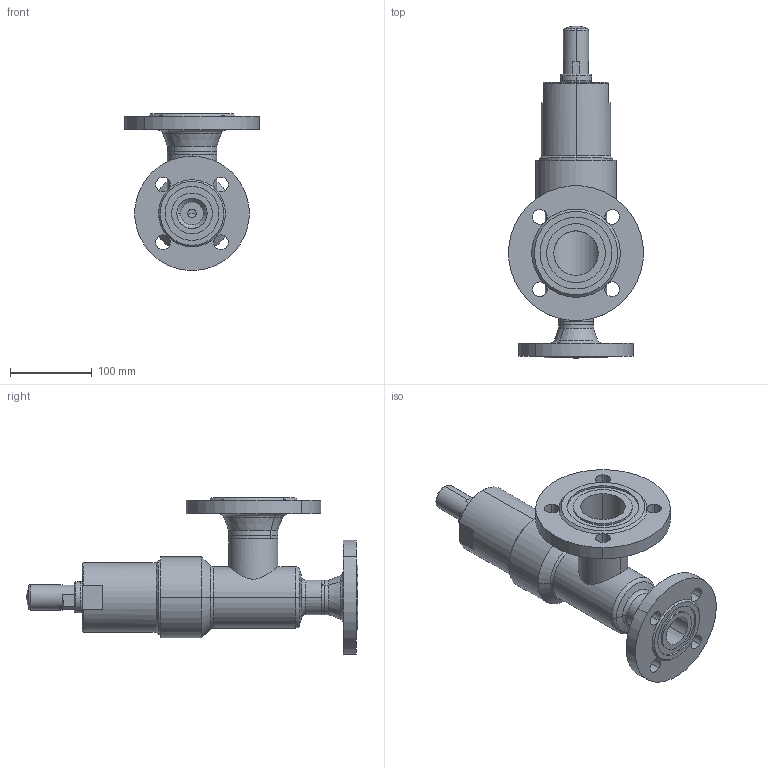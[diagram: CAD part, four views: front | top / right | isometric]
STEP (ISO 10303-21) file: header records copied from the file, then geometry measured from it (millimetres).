
FILE_DESCRIPTION (( 'STEP AP214' ), '1' );
FILE_NAME ('SVA 45520D13-DN32(50)_DIN.STEP', '2010-06-07T11:07:47', ( 'Eckhard Grams' ), ( 'AWP Kälte Klima Armaturen GmbH' ), 'SwSTEP 2.0', 'SolidWorks 2002296', '' );
FILE_SCHEMA (( 'AUTOMOTIVE_DESIGN' ));
Length unit declared in the file: millimetre
Products named in the file (11): SVA 45520D13-DN32(50)_DIN; Gehkpl 45720E13-5030001; Geh 45700E13-5034004_DN32; Flansch-DIN2635-Nut_PS40_DIN-Flansch-DN032_PS40-Nut; Rohrstutzen-A 45700E13-5036004_DN32(50)_Standard; Flansch-DIN2635-Nut_PS40_DIN-Flansch-DN050_PS40-Nut; bead Geh,kpl 45720E13-2_Standard; bead Geh,kpl 45720E13-1_Standard; Flachdichtg-Alu-DN32; Haube 45700E13-5260003_DN32; Kappe SVA-SVU-ORV_DN10-40 (M27x1,5)_Standard
Assembly tree (10 placements, depth 3):
  SVA 45520D13-DN32(50)_DIN
    Kappe SVA-SVU-ORV_DN10-40 (M27x1,5)_Standard
    Gehkpl 45720E13-5030001
      Flansch-DIN2635-Nut_PS40_DIN-Flansch-DN032_PS40-Nut
      bead Geh,kpl 45720E13-1_Standard
      bead Geh,kpl 45720E13-2_Standard
      Rohrstutzen-A 45700E13-5036004_DN32(50)_Standard
      Flansch-DIN2635-Nut_PS40_DIN-Flansch-DN050_PS40-Nut
      Geh 45700E13-5034004_DN32
    Flachdichtg-Alu-DN32
    Haube 45700E13-5260003_DN32
Bounding box: 164.37 x 406 x 191.73 mm (x, y, z)
Volume: 1281134.4 mm3; surface area: 316897 mm2
Topology: 9 solids, 9 shells, 259 faces, 616 edges, 383 vertices
Faces by surface type: cylinder 125, plane 49, cone 45, torus 26, bspline 10, sphere 4
Entity records: 14097 total; most frequent: CARTESIAN_POINT 7308, DIRECTION 1326, ORIENTED_EDGE 1232, EDGE_CURVE 616, AXIS2_PLACEMENT_3D 561, VERTEX_POINT 383, EDGE_LOOP 303, CIRCLE 298
